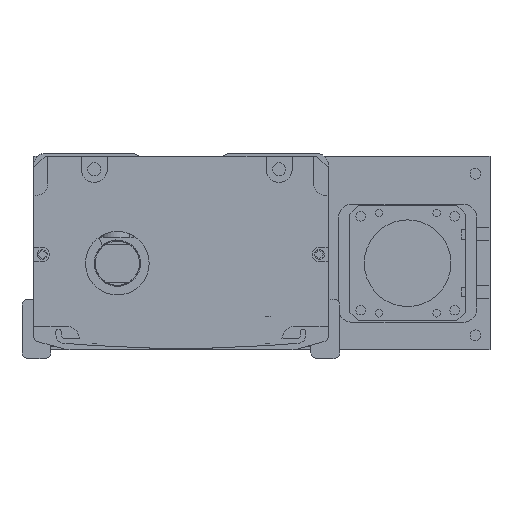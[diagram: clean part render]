
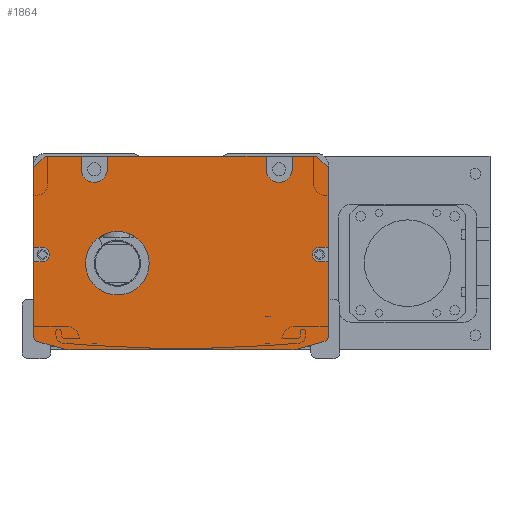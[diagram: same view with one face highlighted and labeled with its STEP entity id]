
A CAD part, front view. The second image highlights one B-rep face of the part: STEP entity #1864.
In plain terms, the highlighted planar face has unit normal (0, -1, 0).
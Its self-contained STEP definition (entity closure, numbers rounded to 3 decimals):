
#1864=ADVANCED_FACE('',(#4472,#4473),#2433,.F.);
#2433=PLANE('',#14301);
#2978=LINE('',#27368,#3779);
#2982=LINE('',#27377,#3783);
#2990=LINE('',#27404,#3791);
#2994=LINE('',#27413,#3795);
#3001=LINE('',#27429,#3802);
#3003=LINE('',#27434,#3804);
#3018=LINE('',#27477,#3819);
#3020=LINE('',#27485,#3821);
#3023=LINE('',#27489,#3824);
#3044=LINE('',#27557,#3845);
#3048=LINE('',#27566,#3849);
#3052=LINE('',#27575,#3853);
#3056=LINE('',#27584,#3857);
#3060=LINE('',#27600,#3861);
#3064=LINE('',#27606,#3865);
#3065=LINE('',#27607,#3866);
#3067=LINE('',#27623,#3868);
#3068=LINE('',#27624,#3869);
#3069=LINE('',#27625,#3870);
#3070=LINE('',#27626,#3871);
#3779=VECTOR('',#16883,1.);
#3783=VECTOR('',#16889,1.);
#3791=VECTOR('',#16911,1.);
#3795=VECTOR('',#16917,1.);
#3802=VECTOR('',#16926,1.);
#3804=VECTOR('',#16930,1.);
#3819=VECTOR('',#16969,1.);
#3821=VECTOR('',#16979,1.);
#3824=VECTOR('',#16984,1.);
#3845=VECTOR('',#17059,1.);
#3849=VECTOR('',#17065,1.);
#3853=VECTOR('',#17071,1.);
#3857=VECTOR('',#17077,1.);
#3861=VECTOR('',#17095,1.);
#3865=VECTOR('',#17099,1.);
#3866=VECTOR('',#17100,1.);
#3868=VECTOR('',#17124,1.);
#3869=VECTOR('',#17125,1.);
#3870=VECTOR('',#17126,1.);
#3871=VECTOR('',#17127,1.);
#4472=FACE_BOUND('',#5414,.T.);
#4473=FACE_BOUND('',#5415,.T.);
#5414=EDGE_LOOP('',(#7947,#7948,#7949,#7950,#7951,#7952,#7953,#7954,#7955,
#7956,#7957,#7958,#7959,#7960,#7961,#7962,#7963,#7964,#7965,#7966,#7967,
#7968,#7969,#7970,#7971,#7972,#7973,#7974));
#5415=EDGE_LOOP('',(#7975));
#7947=ORIENTED_EDGE('',*,*,#12052,.T.);
#7948=ORIENTED_EDGE('',*,*,#11929,.T.);
#7949=ORIENTED_EDGE('',*,*,#12039,.T.);
#7950=ORIENTED_EDGE('',*,*,#11956,.F.);
#7951=ORIENTED_EDGE('',*,*,#11993,.T.);
#7952=ORIENTED_EDGE('',*,*,#11958,.F.);
#7953=ORIENTED_EDGE('',*,*,#12044,.T.);
#7954=ORIENTED_EDGE('',*,*,#11945,.F.);
#7955=ORIENTED_EDGE('',*,*,#11990,.T.);
#7956=ORIENTED_EDGE('',*,*,#11949,.F.);
#7957=ORIENTED_EDGE('',*,*,#12043,.T.);
#7958=ORIENTED_EDGE('',*,*,#11933,.T.);
#7959=ORIENTED_EDGE('',*,*,#12053,.T.);
#7960=ORIENTED_EDGE('',*,*,#12023,.T.);
#7961=ORIENTED_EDGE('',*,*,#12051,.T.);
#7962=ORIENTED_EDGE('',*,*,#12019,.T.);
#7963=ORIENTED_EDGE('',*,*,#12054,.T.);
#7964=ORIENTED_EDGE('',*,*,#11976,.T.);
#7965=ORIENTED_EDGE('',*,*,#11979,.T.);
#7966=ORIENTED_EDGE('',*,*,#11982,.T.);
#7967=ORIENTED_EDGE('',*,*,#11983,.T.);
#7968=ORIENTED_EDGE('',*,*,#11939,.T.);
#7969=ORIENTED_EDGE('',*,*,#11986,.T.);
#7970=ORIENTED_EDGE('',*,*,#11941,.T.);
#7971=ORIENTED_EDGE('',*,*,#12055,.T.);
#7972=ORIENTED_EDGE('',*,*,#12031,.T.);
#7973=ORIENTED_EDGE('',*,*,#12050,.T.);
#7974=ORIENTED_EDGE('',*,*,#12027,.T.);
#7975=ORIENTED_EDGE('',*,*,#11995,.T.);
#10349=VERTEX_POINT('',#27369);
#10350=VERTEX_POINT('',#27370);
#10353=VERTEX_POINT('',#27378);
#10354=VERTEX_POINT('',#27379);
#10359=VERTEX_POINT('',#27390);
#10360=VERTEX_POINT('',#27392);
#10361=VERTEX_POINT('',#27396);
#10362=VERTEX_POINT('',#27397);
#10365=VERTEX_POINT('',#27405);
#10366=VERTEX_POINT('',#27406);
#10369=VERTEX_POINT('',#27414);
#10370=VERTEX_POINT('',#27415);
#10374=VERTEX_POINT('',#27424);
#10376=VERTEX_POINT('',#27428);
#10377=VERTEX_POINT('',#27432);
#10379=VERTEX_POINT('',#27435);
#10389=VERTEX_POINT('',#27465);
#10392=VERTEX_POINT('',#27470);
#10394=VERTEX_POINT('',#27476);
#10396=VERTEX_POINT('',#27482);
#10399=VERTEX_POINT('',#27508);
#10415=VERTEX_POINT('',#27555);
#10417=VERTEX_POINT('',#27558);
#10420=VERTEX_POINT('',#27565);
#10421=VERTEX_POINT('',#27567);
#10423=VERTEX_POINT('',#27573);
#10425=VERTEX_POINT('',#27576);
#10428=VERTEX_POINT('',#27583);
#10429=VERTEX_POINT('',#27585);
#11929=EDGE_CURVE('',#10349,#10350,#2978,.T.);
#11933=EDGE_CURVE('',#10353,#10354,#2982,.T.);
#11939=EDGE_CURVE('',#10360,#10359,#13140,.T.);
#11941=EDGE_CURVE('',#10361,#10362,#13141,.T.);
#11945=EDGE_CURVE('',#10365,#10366,#2990,.T.);
#11949=EDGE_CURVE('',#10369,#10370,#2994,.T.);
#11956=EDGE_CURVE('',#10376,#10374,#3001,.T.);
#11958=EDGE_CURVE('',#10377,#10379,#3003,.T.);
#11976=EDGE_CURVE('',#10389,#10392,#13148,.T.);
#11979=EDGE_CURVE('',#10392,#10394,#3018,.T.);
#11982=EDGE_CURVE('',#10394,#10396,#13150,.T.);
#11983=EDGE_CURVE('',#10396,#10360,#3020,.T.);
#11986=EDGE_CURVE('',#10359,#10361,#3023,.T.);
#11990=EDGE_CURVE('',#10365,#10370,#13153,.T.);
#11993=EDGE_CURVE('',#10376,#10379,#13156,.T.);
#11995=EDGE_CURVE('',#10399,#10399,#13157,.T.);
#12019=EDGE_CURVE('',#10417,#10415,#3044,.T.);
#12023=EDGE_CURVE('',#10421,#10420,#3048,.T.);
#12027=EDGE_CURVE('',#10425,#10423,#3052,.T.);
#12031=EDGE_CURVE('',#10429,#10428,#3056,.T.);
#12039=EDGE_CURVE('',#10350,#10374,#3060,.T.);
#12043=EDGE_CURVE('',#10369,#10353,#3064,.T.);
#12044=EDGE_CURVE('',#10377,#10366,#3065,.T.);
#12050=EDGE_CURVE('',#10428,#10425,#13171,.T.);
#12051=EDGE_CURVE('',#10420,#10417,#13172,.T.);
#12052=EDGE_CURVE('',#10423,#10349,#3067,.T.);
#12053=EDGE_CURVE('',#10354,#10421,#3068,.T.);
#12054=EDGE_CURVE('',#10415,#10389,#3069,.T.);
#12055=EDGE_CURVE('',#10362,#10429,#3070,.T.);
#13140=CIRCLE('',#14228,10.);
#13141=CIRCLE('',#14230,2.);
#13148=CIRCLE('',#14246,2.);
#13150=CIRCLE('',#14250,10.);
#13153=CIRCLE('',#14258,4.5);
#13156=CIRCLE('',#14263,4.5);
#13157=CIRCLE('',#14266,11.);
#13171=CIRCLE('',#14297,2.5);
#13172=CIRCLE('',#14299,2.5);
#14228=AXIS2_PLACEMENT_3D('',#27391,#16898,#16899);
#14230=AXIS2_PLACEMENT_3D('',#27395,#16903,#16904);
#14246=AXIS2_PLACEMENT_3D('',#27471,#16963,#16964);
#14250=AXIS2_PLACEMENT_3D('',#27483,#16975,#16976);
#14258=AXIS2_PLACEMENT_3D('',#27497,#16996,#16997);
#14263=AXIS2_PLACEMENT_3D('',#27503,#17006,#17007);
#14266=AXIS2_PLACEMENT_3D('',#27507,#17013,#17014);
#14297=AXIS2_PLACEMENT_3D('',#27619,#17116,#17117);
#14299=AXIS2_PLACEMENT_3D('',#27621,#17120,#17121);
#14301=AXIS2_PLACEMENT_3D('',#27627,#17128,#17129);
#16883=DIRECTION('',(-0.707,0.,0.707));
#16889=DIRECTION('',(-0.707,0.,-0.707));
#16898=DIRECTION('',(0.,-1.,0.));
#16899=DIRECTION('',(0.,0.,-1.));
#16903=DIRECTION('',(0.,-1.,0.));
#16904=DIRECTION('',(0.,0.,-1.));
#16911=DIRECTION('',(0.,0.,1.));
#16917=DIRECTION('',(0.,0.,-1.));
#16926=DIRECTION('',(0.,0.,1.));
#16930=DIRECTION('',(0.,0.,-1.));
#16963=DIRECTION('',(0.,-1.,0.));
#16964=DIRECTION('',(0.,0.,1.));
#16969=DIRECTION('',(0.963,0.,-0.269));
#16975=DIRECTION('',(0.,-1.,0.));
#16976=DIRECTION('',(0.,0.,1.));
#16979=DIRECTION('',(1.,0.,0.));
#16984=DIRECTION('',(0.963,0.,0.269));
#16996=DIRECTION('',(0.,1.,0.));
#16997=DIRECTION('',(0.,0.,1.));
#17006=DIRECTION('',(0.,1.,0.));
#17007=DIRECTION('',(0.,0.,1.));
#17013=DIRECTION('',(0.,1.,0.));
#17014=DIRECTION('',(0.,0.,1.));
#17059=DIRECTION('',(-1.,0.,0.));
#17065=DIRECTION('',(1.,0.,0.));
#17071=DIRECTION('',(1.,0.,0.));
#17077=DIRECTION('',(-1.,0.,0.));
#17095=DIRECTION('',(-1.,0.,0.));
#17099=DIRECTION('',(-1.,0.,0.));
#17100=DIRECTION('',(-1.,0.,0.));
#17116=DIRECTION('',(0.,1.,0.));
#17117=DIRECTION('',(0.,0.,1.));
#17120=DIRECTION('',(0.,1.,0.));
#17121=DIRECTION('',(0.,0.,1.));
#17124=DIRECTION('',(0.,0.,1.));
#17125=DIRECTION('',(0.,0.,-1.));
#17126=DIRECTION('',(0.,0.,-1.));
#17127=DIRECTION('',(0.,0.,1.));
#17128=DIRECTION('',(0.,1.,0.));
#17129=DIRECTION('',(-1.,0.,0.));
#27368=CARTESIAN_POINT('',(43.808,-867.5,-1.));
#27369=CARTESIAN_POINT('',(47.808,-867.5,-5.));
#27370=CARTESIAN_POINT('',(43.808,-867.5,-1.));
#27377=CARTESIAN_POINT('',(-54.192,-867.5,-5.));
#27378=CARTESIAN_POINT('',(-50.192,-867.5,-1.));
#27379=CARTESIAN_POINT('',(-54.192,-867.5,-5.));
#27390=CARTESIAN_POINT('',(37.424,-867.5,-67.631));
#27391=CARTESIAN_POINT('',(34.733,-867.5,-58.));
#27392=CARTESIAN_POINT('',(34.733,-867.5,-68.));
#27395=CARTESIAN_POINT('',(45.808,-867.5,-63.212));
#27396=CARTESIAN_POINT('',(46.346,-867.5,-65.138));
#27397=CARTESIAN_POINT('',(47.808,-867.5,-63.212));
#27404=CARTESIAN_POINT('',(-28.692,-867.5,-3.5));
#27405=CARTESIAN_POINT('',(-28.692,-867.5,-5.5));
#27406=CARTESIAN_POINT('',(-28.692,-867.5,-1.));
#27413=CARTESIAN_POINT('',(-37.692,-867.5,-1.));
#27414=CARTESIAN_POINT('',(-37.692,-867.5,-1.));
#27415=CARTESIAN_POINT('',(-37.692,-867.5,-5.5));
#27424=CARTESIAN_POINT('',(35.308,-867.5,-1.));
#27428=CARTESIAN_POINT('',(35.308,-867.5,-5.5));
#27429=CARTESIAN_POINT('',(35.308,-867.5,-1.));
#27432=CARTESIAN_POINT('',(26.308,-867.5,-1.));
#27434=CARTESIAN_POINT('',(26.308,-867.5,-1.));
#27435=CARTESIAN_POINT('',(26.308,-867.5,-5.5));
#27465=CARTESIAN_POINT('',(-54.192,-867.5,-63.212));
#27470=CARTESIAN_POINT('',(-52.731,-867.5,-65.138));
#27471=CARTESIAN_POINT('',(-52.192,-867.5,-63.212));
#27476=CARTESIAN_POINT('',(-43.809,-867.5,-67.631));
#27477=CARTESIAN_POINT('',(-55.807,-867.5,-64.279));
#27482=CARTESIAN_POINT('',(-41.118,-867.5,-68.));
#27483=CARTESIAN_POINT('',(-41.118,-867.5,-58.));
#27485=CARTESIAN_POINT('',(-54.692,-867.5,-68.));
#27489=CARTESIAN_POINT('',(49.422,-867.5,-64.279));
#27497=CARTESIAN_POINT('',(-33.192,-867.5,-5.5));
#27503=CARTESIAN_POINT('',(30.808,-867.5,-5.5));
#27507=CARTESIAN_POINT('',(-25.192,-867.5,-38.));
#27508=CARTESIAN_POINT('',(-25.192,-867.5,-27.));
#27555=CARTESIAN_POINT('',(-54.192,-867.5,-37.5));
#27557=CARTESIAN_POINT('',(-3.192,-867.5,-37.5));
#27558=CARTESIAN_POINT('',(-51.192,-867.5,-37.5));
#27565=CARTESIAN_POINT('',(-51.192,-867.5,-32.5));
#27566=CARTESIAN_POINT('',(-3.192,-867.5,-32.5));
#27567=CARTESIAN_POINT('',(-54.192,-867.5,-32.5));
#27573=CARTESIAN_POINT('',(47.808,-867.5,-32.5));
#27575=CARTESIAN_POINT('',(-3.192,-867.5,-32.5));
#27576=CARTESIAN_POINT('',(44.808,-867.5,-32.5));
#27583=CARTESIAN_POINT('',(44.808,-867.5,-37.5));
#27584=CARTESIAN_POINT('',(-3.192,-867.5,-37.5));
#27585=CARTESIAN_POINT('',(47.808,-867.5,-37.5));
#27600=CARTESIAN_POINT('',(-3.192,-867.5,-1.));
#27606=CARTESIAN_POINT('',(-54.192,-867.5,-1.));
#27607=CARTESIAN_POINT('',(-54.192,-867.5,-1.));
#27619=CARTESIAN_POINT('',(44.808,-867.5,-35.));
#27621=CARTESIAN_POINT('',(-51.192,-867.5,-35.));
#27623=CARTESIAN_POINT('',(47.808,-867.5,-1.));
#27624=CARTESIAN_POINT('',(-54.192,-867.5,-62.));
#27625=CARTESIAN_POINT('',(-54.192,-867.5,-62.));
#27626=CARTESIAN_POINT('',(47.808,-867.5,-1.));
#27627=CARTESIAN_POINT('',(-3.192,-867.5,-1.));
